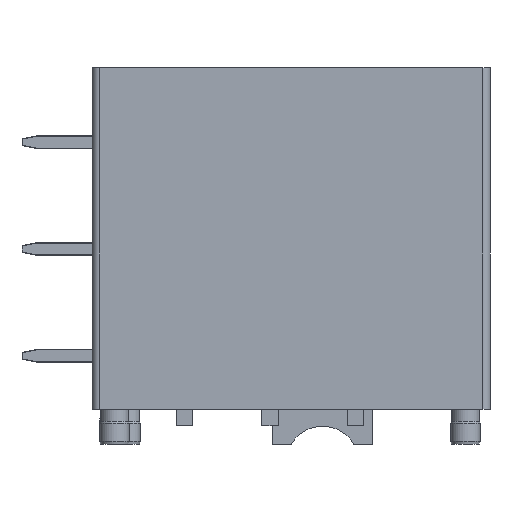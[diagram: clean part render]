
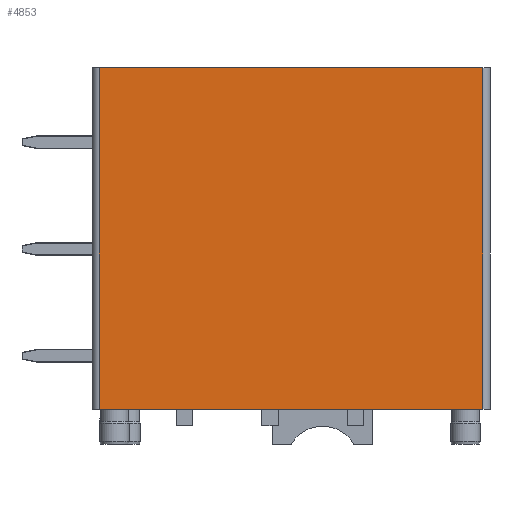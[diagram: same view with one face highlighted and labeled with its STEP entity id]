
A CAD part, front view. The second image highlights one B-rep face of the part: STEP entity #4853.
In plain terms, the highlighted planar face has unit normal (0, -1, 0).
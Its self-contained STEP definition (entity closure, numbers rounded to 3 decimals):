
#283=DIRECTION('',(0.,0.,1.));
#284=VECTOR('',#283,24.36);
#285=CARTESIAN_POINT('',(14.95,-9.35,-19.05));
#286=LINE('',#285,#284);
#291=DIRECTION('',(-1.,0.,0.));
#292=VECTOR('',#291,27.4);
#293=CARTESIAN_POINT('',(14.95,-9.35,-19.05));
#294=LINE('',#293,#292);
#299=DIRECTION('',(0.,0.,-1.));
#300=VECTOR('',#299,24.36);
#301=CARTESIAN_POINT('',(-12.45,-9.35,5.31));
#302=LINE('',#301,#300);
#461=DIRECTION('',(-1.,0.,0.));
#462=VECTOR('',#461,27.4);
#463=CARTESIAN_POINT('',(14.95,-9.35,5.31));
#464=LINE('',#463,#462);
#3497=CARTESIAN_POINT('',(14.95,-9.35,-19.05));
#3498=CARTESIAN_POINT('',(14.95,-9.35,5.31));
#3499=VERTEX_POINT('',#3497);
#3500=VERTEX_POINT('',#3498);
#3501=CARTESIAN_POINT('',(-12.45,-9.35,5.31));
#3502=CARTESIAN_POINT('',(-12.45,-9.35,-19.05));
#3503=VERTEX_POINT('',#3501);
#3504=VERTEX_POINT('',#3502);
#4839=CARTESIAN_POINT('',(-12.95,-9.35,-3.81));
#4840=DIRECTION('',(0.,-1.,0.));
#4841=DIRECTION('',(1.,0.,0.));
#4842=AXIS2_PLACEMENT_3D('',#4839,#4840,#4841);
#4843=PLANE('',#4842);
#4845=ORIENTED_EDGE('',*,*,#4844,.F.);
#4847=ORIENTED_EDGE('',*,*,#4846,.F.);
#4848=ORIENTED_EDGE('',*,*,#4829,.F.);
#4850=ORIENTED_EDGE('',*,*,#4849,.T.);
#4851=EDGE_LOOP('',(#4845,#4847,#4848,#4850));
#4852=FACE_OUTER_BOUND('',#4851,.F.);
#4853=ADVANCED_FACE('',(#4852),#4843,.T.);
#4829=EDGE_CURVE('',#3499,#3500,#286,.T.);
#4844=EDGE_CURVE('',#3503,#3504,#302,.T.);
#4846=EDGE_CURVE('',#3500,#3503,#464,.T.);
#4849=EDGE_CURVE('',#3499,#3504,#294,.T.);
